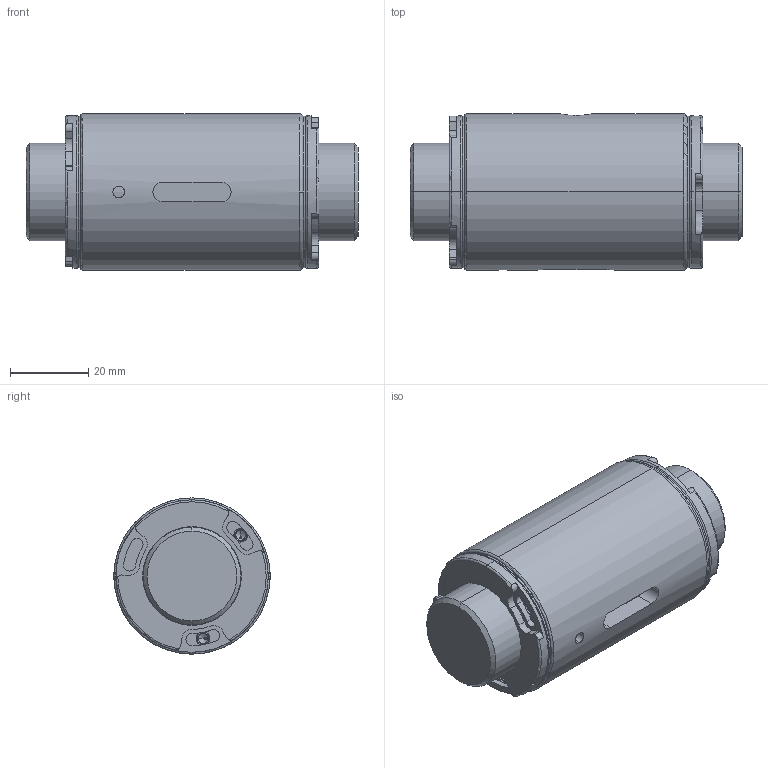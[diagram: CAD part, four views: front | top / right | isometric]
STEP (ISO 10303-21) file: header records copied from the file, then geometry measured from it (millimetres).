
FILE_DESCRIPTION (( 'STEP AP203' ), '1' );
FILE_NAME ('SCHR02525A1-C.STEP', '2020-06-22T06:09:24', ( '' ), ( '' ), 'SwSTEP 2.0', 'SolidWorks 2013', '' );
FILE_SCHEMA (( 'CONFIG_CONTROL_DESIGN' ));
Length unit declared in the file: millimetre
Products named in the file (1): SCHR02525A1-C
Bounding box: 85 x 40 x 40 mm (x, y, z)
Volume: 84822.2 mm3; surface area: 23809.9 mm2
Topology: 2 solids, 2 shells, 225 faces, 573 edges, 362 vertices
Faces by surface type: cylinder 117, plane 64, cone 28, torus 16
Entity records: 7606 total; most frequent: CARTESIAN_POINT 1899, DIRECTION 1313, ORIENTED_EDGE 1122, EDGE_CURVE 561, AXIS2_PLACEMENT_3D 560, VERTEX_POINT 362, CIRCLE 334, EDGE_LOOP 251
